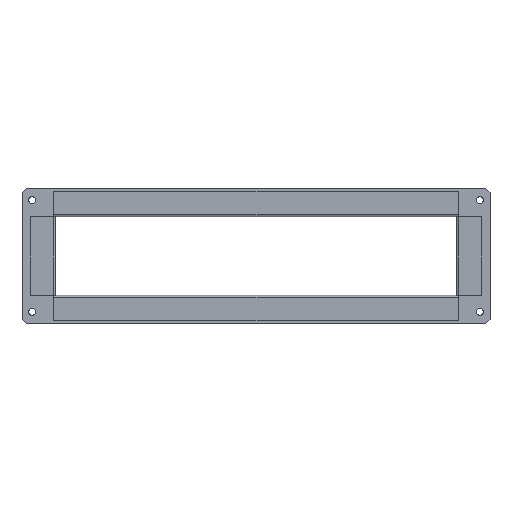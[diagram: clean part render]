
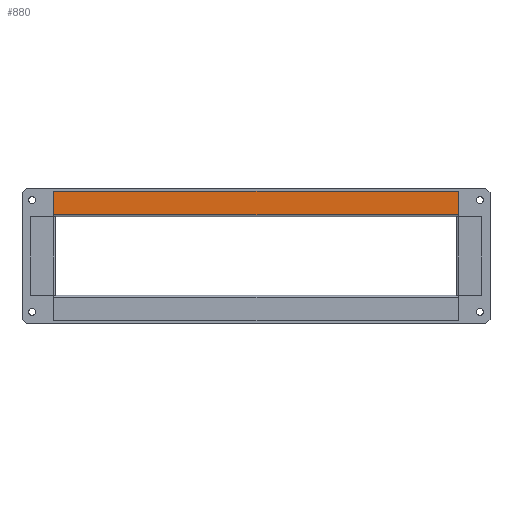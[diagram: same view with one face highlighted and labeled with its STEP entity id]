
A CAD part, top view. The second image highlights one B-rep face of the part: STEP entity #880.
In plain terms, the highlighted planar face has unit normal (0, 0, 1) as drawn and (0, 0, -1) by its records, which use the part's own axes.
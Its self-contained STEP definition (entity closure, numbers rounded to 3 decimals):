
#36 = DIRECTION ( 'NONE',  ( 0., 0., -1. ) ) ;
#46 = PLANE ( 'NONE',  #2474 ) ;
#67 = DIRECTION ( 'NONE',  ( -1., 0., 0. ) ) ;
#85 = CARTESIAN_POINT ( 'NONE',  ( 200.8, 1.8, 0. ) ) ;
#302 = DIRECTION ( 'NONE',  ( 0., -1., 0. ) ) ;
#578 = VECTOR ( 'NONE', #302, 1000. ) ;
#666 = CARTESIAN_POINT ( 'NONE',  ( 200.8, 0., 0. ) ) ;
#849 = VERTEX_POINT ( 'NONE', #1679 ) ;
#880 = ADVANCED_FACE ( 'NONE', ( #6359 ), #46, .T. ) ;
#1147 = LINE ( 'NONE', #85, #3667 ) ;
#1229 = VECTOR ( 'NONE', #5272, 1000. ) ;
#1328 = CARTESIAN_POINT ( 'NONE',  ( 200.8, 0., 0. ) ) ;
#1390 = LINE ( 'NONE', #6405, #3926 ) ;
#1540 = CARTESIAN_POINT ( 'NONE',  ( 200.8, 1.8, 0. ) ) ;
#1653 = ORIENTED_EDGE ( 'NONE', *, *, #3066, .T. ) ;
#1679 = CARTESIAN_POINT ( 'NONE',  ( -200.8, 25., 0. ) ) ;
#2150 = EDGE_CURVE ( 'NONE', #2547, #849, #1390, .T. ) ;
#2221 = CARTESIAN_POINT ( 'NONE',  ( -200.8, 0., 0. ) ) ;
#2406 = ORIENTED_EDGE ( 'NONE', *, *, #4074, .F. ) ;
#2422 = ORIENTED_EDGE ( 'NONE', *, *, #2150, .F. ) ;
#2474 = AXIS2_PLACEMENT_3D ( 'NONE', #666, #36, #67 ) ;
#2512 = LINE ( 'NONE', #2221, #1229 ) ;
#2547 = VERTEX_POINT ( 'NONE', #5739 ) ;
#3066 = EDGE_CURVE ( 'NONE', #3798, #5799, #1147, .T. ) ;
#3389 = EDGE_CURVE ( 'NONE', #2547, #3798, #6037, .T. ) ;
#3667 = VECTOR ( 'NONE', #5983, 1000. ) ;
#3798 = VERTEX_POINT ( 'NONE', #1540 ) ;
#3926 = VECTOR ( 'NONE', #6376, 1000. ) ;
#4074 = EDGE_CURVE ( 'NONE', #849, #5799, #2512, .T. ) ;
#5272 = DIRECTION ( 'NONE',  ( 0., -1., 0. ) ) ;
#5273 = EDGE_LOOP ( 'NONE', ( #2406, #2422, #5353, #1653 ) ) ;
#5353 = ORIENTED_EDGE ( 'NONE', *, *, #3389, .T. ) ;
#5739 = CARTESIAN_POINT ( 'NONE',  ( 200.8, 25., 0. ) ) ;
#5799 = VERTEX_POINT ( 'NONE', #5844 ) ;
#5844 = CARTESIAN_POINT ( 'NONE',  ( -200.8, 1.8, 0. ) ) ;
#5983 = DIRECTION ( 'NONE',  ( -1., 0., 0. ) ) ;
#6037 = LINE ( 'NONE', #1328, #578 ) ;
#6359 = FACE_OUTER_BOUND ( 'NONE', #5273, .T. ) ;
#6376 = DIRECTION ( 'NONE',  ( -1., 0., 0. ) ) ;
#6405 = CARTESIAN_POINT ( 'NONE',  ( 200.8, 25., 0. ) ) ;
